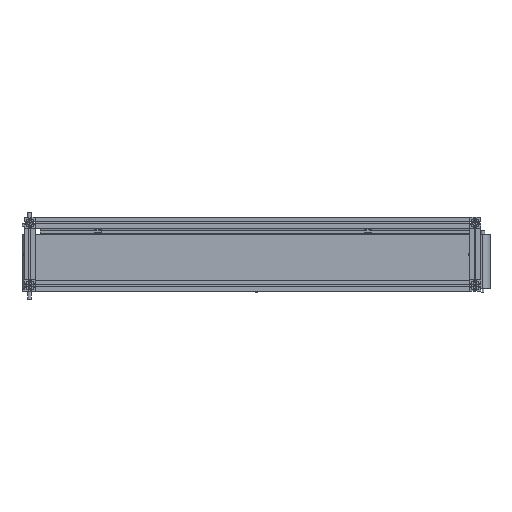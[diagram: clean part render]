
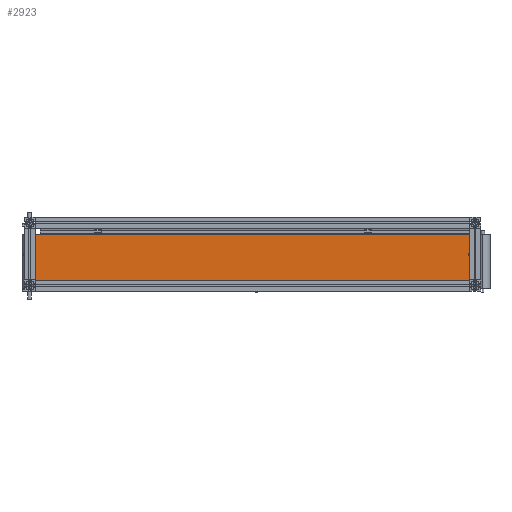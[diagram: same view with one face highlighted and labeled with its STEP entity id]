
A CAD part, front view. The second image highlights one B-rep face of the part: STEP entity #2923.
In plain terms, the highlighted planar face has unit normal (0.001, -1, 0) as drawn and (0, 0, 1) by its records, which use the part's own axes.
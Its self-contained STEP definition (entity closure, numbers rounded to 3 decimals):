
#1855=PLANE('',#21950);
#2923=ADVANCED_FACE('',(#4328),#1855,.F.);
#4328=FACE_OUTER_BOUND('',#5470,.T.);
#5470=EDGE_LOOP('',(#14646,#14647,#14648,#14649));
#7032=LINE('',#38435,#8941);
#7036=LINE('',#38454,#8945);
#7040=LINE('',#38467,#8949);
#7041=LINE('',#38468,#8950);
#8941=VECTOR('',#25632,1.);
#8945=VECTOR('',#25652,1.);
#8949=VECTOR('',#25668,1.);
#8950=VECTOR('',#25669,1.);
#14646=ORIENTED_EDGE('',*,*,#19529,.T.);
#14647=ORIENTED_EDGE('',*,*,#19522,.F.);
#14648=ORIENTED_EDGE('',*,*,#19530,.F.);
#14649=ORIENTED_EDGE('',*,*,#19513,.T.);
#16635=VERTEX_POINT('',#38430);
#16637=VERTEX_POINT('',#38434);
#16644=VERTEX_POINT('',#38453);
#16645=VERTEX_POINT('',#38455);
#19513=EDGE_CURVE('',#16635,#16637,#7032,.T.);
#19522=EDGE_CURVE('',#16644,#16645,#7036,.T.);
#19529=EDGE_CURVE('',#16637,#16645,#7040,.T.);
#19530=EDGE_CURVE('',#16635,#16644,#7041,.T.);
#21950=AXIS2_PLACEMENT_3D('',#38469,#25670,#25671);
#25632=DIRECTION('',(0.,-1.,0.));
#25652=DIRECTION('',(0.,-1.,0.));
#25668=DIRECTION('',(1.,0.,0.));
#25669=DIRECTION('',(1.,0.,0.));
#25670=DIRECTION('',(0.,0.,-1.));
#25671=DIRECTION('',(1.,0.,0.));
#38430=CARTESIAN_POINT('',(15042.443,150.,41.427));
#38434=CARTESIAN_POINT('',(15042.443,-150.,41.427));
#38435=CARTESIAN_POINT('',(15042.443,150.,41.427));
#38453=CARTESIAN_POINT('',(17560.,150.,41.427));
#38454=CARTESIAN_POINT('',(17560.,150.,41.427));
#38455=CARTESIAN_POINT('',(17560.,-150.,41.427));
#38467=CARTESIAN_POINT('',(15042.443,-150.,41.427));
#38468=CARTESIAN_POINT('',(15042.443,150.,41.427));
#38469=CARTESIAN_POINT('',(15042.443,150.,41.427));
